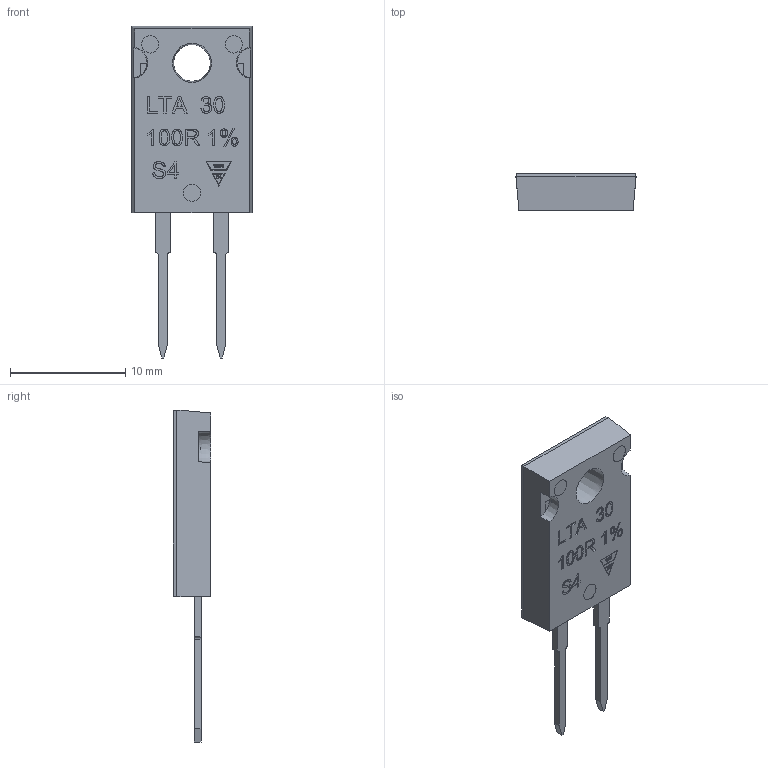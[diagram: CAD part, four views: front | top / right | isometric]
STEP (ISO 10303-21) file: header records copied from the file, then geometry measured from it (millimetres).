
FILE_DESCRIPTION(/* description */ ('Unknown'),/* implementation_level */ '2;1');
FILE_NAME(/* name */ '523395-24 LTA30',/* time_stamp */ '2024-11-18T11:38:07+01:00',/* author */ ('Unknown'),/* organization */ ('Unknown'),/* preprocessor_version */ 'ST-DEVELOPER v19.4',/* originating_system */ 'Solid Edge',/* authorisation */ 'Unknown');
FILE_SCHEMA (('AUTOMOTIVE_DESIGN {1 0 10303 214 3 1 1}'));
Length unit declared in the file: millimetre
Products named in the file (1): 523395-24 LTA30
Bounding box: 10.44 x 3.22 x 28.87 mm (x, y, z)
Volume: 510.7 mm3; surface area: 596.2 mm2
Topology: 1 solids, 1 shells, 241 faces, 585 edges, 389 vertices
Faces by surface type: plane 193, bspline 30, cylinder 15, cone 3
Full cylindrical faces by diameter (mm): 1.5 x3
Entity records: 9644 total; most frequent: CARTESIAN_POINT 2538, ORIENTED_EDGE 1132, DIRECTION 950, EDGE_CURVE 566, LINE 446, VECTOR 446, VERTEX_POINT 388, EDGE_LOOP 304
